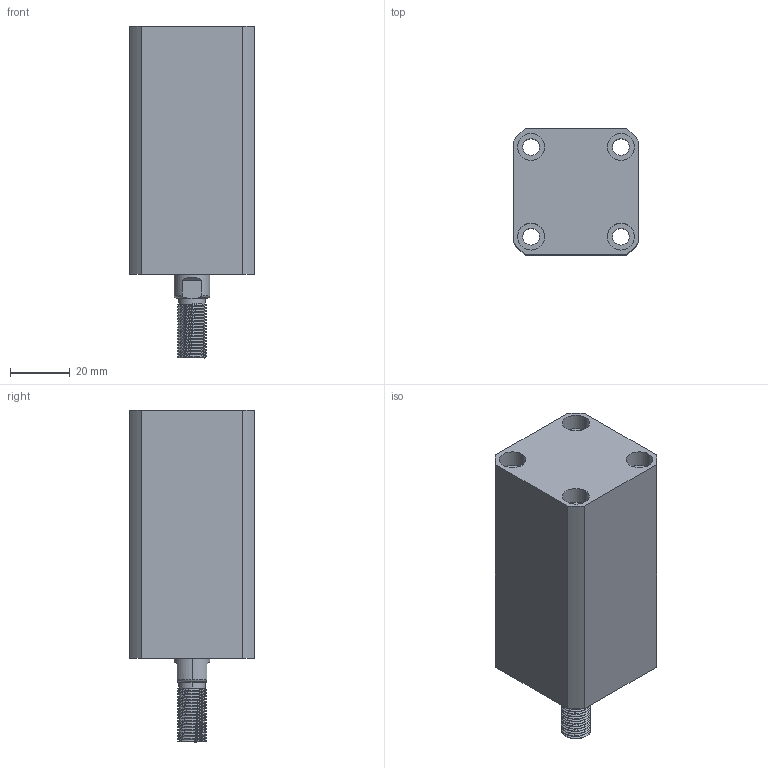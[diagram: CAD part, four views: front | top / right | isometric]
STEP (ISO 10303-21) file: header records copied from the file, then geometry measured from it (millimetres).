
FILE_DESCRIPTION (( 'STEP AP214' ), '1' );
FILE_NAME ('chtb-sd20x40w_asm.STEP', '2018-05-16T09:27:42', ( 'Windows' ), ( 'Microsoft' ), 'SwSTEP 2.0', 'SolidWorks 2015', '' );
FILE_SCHEMA (( 'AUTOMOTIVE_DESIGN' ));
Length unit declared in the file: millimetre
Products named in the file (4): chtb-sd20x40w_asm; QG; CHTB-SD20X40WHSG; CHTB-SD20X40NBT
Assembly tree (3 placements, depth 2):
  chtb-sd20x40w_asm
    CHTB-SD20X40NBT
    CHTB-SD20X40WHSG
    QG
Bounding box: 42 x 42 x 111 mm (x, y, z)
Volume: 125328.6 mm3; surface area: 38465.3 mm2
Topology: 3 solids, 3 shells, 234 faces, 624 edges, 415 vertices
Faces by surface type: cylinder 139, plane 40, torus 25, bspline 21, cone 9
Entity records: 13734 total; most frequent: CARTESIAN_POINT 8172, ORIENTED_EDGE 1240, DIRECTION 1039, EDGE_CURVE 620, AXIS2_PLACEMENT_3D 431, VERTEX_POINT 415, EDGE_LOOP 271, ADVANCED_FACE 234
